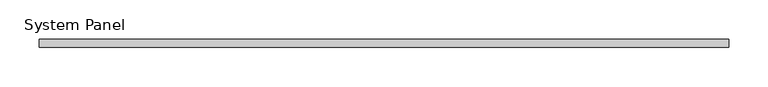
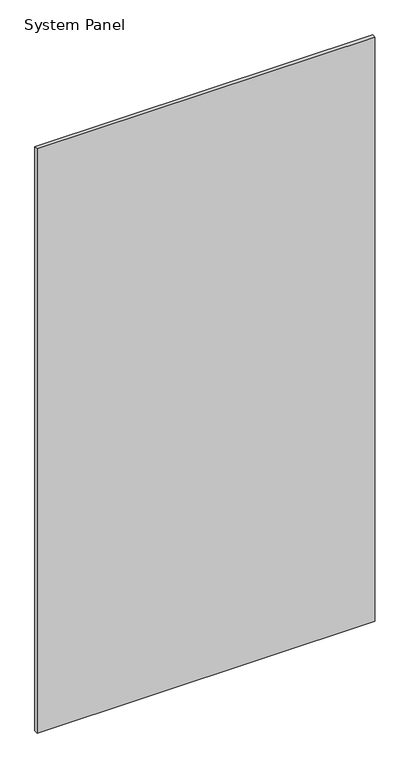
"""IFC4 building model written with IfcOpenShell, lengths in millimetres: plate geometry, System Panel : стекло_смещение_0."""

import ifcopenshell
import ifcopenshell.guid

model = None  # the IFC model being written
_history = None  # IfcOwnerHistory: only IFC2X3 demands one
_inside = {}  # id of a spatial element -> (the spatial element, [elements in it])
_under = {}  # id of a project, library or spatial element -> (it, [spatial elements below it])
_declared = {}  # id of a project -> (the project, [libraries it declares])
_typed = {}  # id of a type object -> (the type object, [elements of that type])
_made_of = {}  # id of a material, layer set ... -> (it, [elements and type objects made of it])


def new_model(schema):
    """Start an empty IFC model of exactly this schema.

    Asked for "IFC4X3", IfcOpenShell would pick the latest addendum, in which some entities
    have other attributes; the version numbers below select the first issue.
    IFC2X3 requires an IfcOwnerHistory on every rooted entity: one is made here for all.
    """
    global model, _history
    if schema == "IFC4X3":
        model = ifcopenshell.file(schema_version=(4, 3, 0, 0))
    else:
        model = ifcopenshell.file(schema=schema)
    _inside.clear()
    _under.clear()
    _declared.clear()
    _typed.clear()
    _made_of.clear()
    _history = None
    if model.schema == "IFC2X3":
        org = make("IfcOrganization", Name="unknown")
        user = make(
            "IfcPersonAndOrganization",
            ThePerson=make("IfcPerson", FamilyName="unknown"),
            TheOrganization=org,
        )
        app = make(
            "IfcApplication",
            ApplicationDeveloper=org,
            Version="unknown",
            ApplicationFullName="unknown",
            ApplicationIdentifier="unknown",
        )
        _history = make(
            "IfcOwnerHistory",
            OwningUser=user,
            OwningApplication=app,
            ChangeAction="ADDED",
            CreationDate=0,
        )
    return model


def make(cls, **values):
    """One entity of the class cls with the attributes given. An attribute that is None is left unset."""
    return model.create_entity(
        cls, **{name: value for name, value in values.items() if value is not None}
    )


def rooted(cls, **values):
    """An entity with a GlobalId (a new one), such as an element, a storey or a relation."""
    return make(cls, GlobalId=ifcopenshell.guid.new(), OwnerHistory=_history, **values)


def si_unit(unit_type, name, prefix=None):
    """IfcSIUnit, for example si_unit("LENGTHUNIT", "METRE", prefix="MILLI")."""
    return make("IfcSIUnit", UnitType=unit_type, Prefix=prefix, Name=name)


def assignment(units):
    """IfcUnitAssignment: the units of a project."""
    return None if units is None else make("IfcUnitAssignment", Units=units)


def point(xyz):
    """IfcCartesianPoint."""
    return None if xyz is None else make("IfcCartesianPoint", Coordinates=xyz)


def direction(xyz):
    """IfcDirection."""
    return None if xyz is None else make("IfcDirection", DirectionRatios=xyz)


def frame(location, z_axis=None, x_axis=None):
    """IfcAxis2Placement3D, a coordinate frame: its origin and axes. An axis left out is left unset."""
    return make(
        "IfcAxis2Placement3D",
        Location=point(location),
        Axis=direction(z_axis),
        RefDirection=direction(x_axis),
    )


def origin():
    """The frame at (0, 0, 0) with its axes left unset."""
    return frame((0.0, 0.0, 0.0))


def origin_with_axes():
    """The frame at (0, 0, 0) with the z axis (0, 0, 1) and the x axis (1, 0, 0) written out."""
    return frame((0.0, 0.0, 0.0), z_axis=(0.0, 0.0, 1.0), x_axis=(1.0, 0.0, 0.0))


def place(relative_to, where):
    """IfcLocalPlacement: puts the frame where relative to a parent placement (None: the world)."""
    return make(
        "IfcLocalPlacement", PlacementRelTo=relative_to, RelativePlacement=where
    )


def context(
    kind, dimensions, precision=None, world=None, true_north=None, identifier=None
):
    """IfcGeometricRepresentationContext, for example the 3D "Model" context."""
    return make(
        "IfcGeometricRepresentationContext",
        ContextIdentifier=identifier,
        ContextType=kind,
        CoordinateSpaceDimension=dimensions,
        Precision=precision,
        WorldCoordinateSystem=world,
        TrueNorth=true_north,
    )


def project(units=None, contexts=None):
    """IfcProject with its units and contexts."""
    return rooted(
        "IfcProject",
        Name="project",
        RepresentationContexts=contexts,
        UnitsInContext=assignment(units),
    )


def spatial(cls, under=None, at=None, **own):
    """A site, building, storey or space (cls), placed at a placement, below another one or the project."""
    s = rooted(cls, ObjectPlacement=at, **own)
    if under is not None:
        _under.setdefault(under.id(), (under, []))[1].append(s)
    return s


def polyline(points):
    """IfcPolyline through the points."""
    return make("IfcPolyline", Points=[point(p) for p in points])


def outline(outer, holes=None, kind="AREA"):
    """IfcArbitraryClosedProfileDef: a profile drawn as a closed curve; with holes, ...WithVoids."""
    if holes is None:
        return make("IfcArbitraryClosedProfileDef", ProfileType=kind, OuterCurve=outer)
    return make(
        "IfcArbitraryProfileDefWithVoids",
        ProfileType=kind,
        OuterCurve=outer,
        InnerCurves=holes,
    )


def extrude(swept, where, along, depth):
    """IfcExtrudedAreaSolid: the profile swept, set in the frame where, extruded along a direction by depth."""
    return make(
        "IfcExtrudedAreaSolid",
        SweptArea=swept,
        Position=where,
        ExtrudedDirection=direction(along),
        Depth=depth,
    )


def shape(context_of_items, identifier, shape_type, items):
    """IfcShapeRepresentation: the items that make up one representation, for example the "Body"."""
    return make(
        "IfcShapeRepresentation",
        ContextOfItems=context_of_items,
        RepresentationIdentifier=identifier,
        RepresentationType=shape_type,
        Items=items,
    )


def source(mapping_origin, context_of_items, identifier, shape_type, items):
    """IfcRepresentationMap: a shape defined once, which mapped items show again and again."""
    return make(
        "IfcRepresentationMap",
        MappingOrigin=mapping_origin,
        MappedRepresentation=shape(context_of_items, identifier, shape_type, items),
    )


def transform(
    local_origin,
    x_axis=None,
    y_axis=None,
    z_axis=None,
    scale=None,
    scale2=None,
    scale3=None,
    uniform=True,
):
    """IfcCartesianTransformationOperator3D, or its non-uniform kind. x_axis, y_axis, z_axis: its Axis1, 2, 3."""
    if uniform:
        return make(
            "IfcCartesianTransformationOperator3D",
            Axis1=direction(x_axis),
            Axis2=direction(y_axis),
            LocalOrigin=point(local_origin),
            Scale=scale,
            Axis3=direction(z_axis),
        )
    return make(
        "IfcCartesianTransformationOperator3DnonUniform",
        Axis1=direction(x_axis),
        Axis2=direction(y_axis),
        LocalOrigin=point(local_origin),
        Scale=scale,
        Axis3=direction(z_axis),
        Scale2=scale2,
        Scale3=scale3,
    )


def mapped(mapping_source, mapping_target):
    """IfcMappedItem: shows the shape of a source again, moved by a transform."""
    return make(
        "IfcMappedItem", MappingSource=mapping_source, MappingTarget=mapping_target
    )


def made_of(thing, what):
    """Note that an element or type object is made of a material, layer set ...; save() writes the relation."""
    if what is not None:
        _made_of.setdefault(what.id(), (what, []))[1].append(thing)
    return thing


def element(
    cls,
    number,
    at=None,
    inside=None,
    cuts=None,
    type_object=None,
    material=None,
    context=None,
    identifier="Body",
    shape_type=None,
    held_by="IfcProductDefinitionShape",
    body=None,
    shapes=None,
    **own,
):
    """One element of the class cls, such as IfcWall. Its Tag is "e" and its number.

    at: its placement. inside: the storey or other place that contains it. cuts: it is an
    opening in that element (IfcRelVoidsElement). A single representation is given by context,
    identifier, shape_type and body (its items); several are given by shapes. held_by: the class
    of the entity that holds the representations. save() writes the other relations.
    """
    e = rooted(cls, Tag="e%d" % number, ObjectPlacement=at, **own)
    if body is not None:
        shapes = [shape(context, identifier, shape_type, body)]
    if shapes is not None:
        e.Representation = make(held_by, Representations=shapes)
    if inside is not None:
        _inside.setdefault(inside.id(), (inside, []))[1].append(e)
    if cuts is not None:
        rooted(
            "IfcRelVoidsElement", RelatingBuildingElement=cuts, RelatedOpeningElement=e
        )
    if type_object is not None:
        _typed.setdefault(type_object.id(), (type_object, []))[1].append(e)
    return made_of(e, material)


def aggregate(whole, parts):
    """IfcRelAggregates: a whole, such as a stair, and the parts it consists of."""
    return rooted("IfcRelAggregates", RelatingObject=whole, RelatedObjects=parts)


def save(model, path):
    """Write the relations noted so far, then the file.

    IfcRelAggregates (storeys below a building ...), IfcRelContainedInSpatialStructure (elements
    in a storey), IfcRelDefinesByType, IfcRelAssociatesMaterial and IfcRelDeclares: one each for
    every whole, place, type object, material and project.
    """
    for whole, parts in _under.values():
        aggregate(whole, parts)
    for where, things in _inside.values():
        rooted(
            "IfcRelContainedInSpatialStructure",
            RelatedElements=things,
            RelatingStructure=where,
        )
    for kind, things in _typed.values():
        rooted("IfcRelDefinesByType", RelatedObjects=things, RelatingType=kind)
    for what, things in _made_of.values():
        rooted("IfcRelAssociatesMaterial", RelatedObjects=things, RelatingMaterial=what)
    for by, libraries in _declared.values():
        rooted("IfcRelDeclares", RelatingContext=by, RelatedDefinitions=libraries)
    model.write(path)


def system_panel_4058b4fb(model_context):
    return source(origin(), model_context, "Body", "SweptSolid", [
        extrude(outline(polyline([(437.5, -5.0), (-437.5, -5.0), (-437.5, 5.0), (437.5, 5.0), (437.5, -5.0)])), origin_with_axes(), (0.0, 0.0, 1.0), 1600.0),
    ])


if __name__ == "__main__":
    model = new_model("IFC4")
    model_context = context("Model", 3, world=origin())
    ifc_project = project(units=[si_unit("LENGTHUNIT", "METRE", prefix="MILLI")], contexts=[model_context])
    site = spatial("IfcSite", under=ifc_project)
    building = spatial("IfcBuilding", under=site)
    placement = place(None, origin())
    system_panel_shape = system_panel_4058b4fb(model_context)
    element("IfcPlate", 1, ObjectType="System Panel : стекло_смещение_0", at=placement, inside=building, context=model_context, shape_type="MappedRepresentation", body=[
        mapped(system_panel_shape, transform((0.0, 0.0, 0.0), x_axis=(1.0, 0.0, 0.0), y_axis=(0.0, 1.0, 0.0), z_axis=(0.0, 0.0, 1.0))),
    ])
    save(model, "model.ifc")
